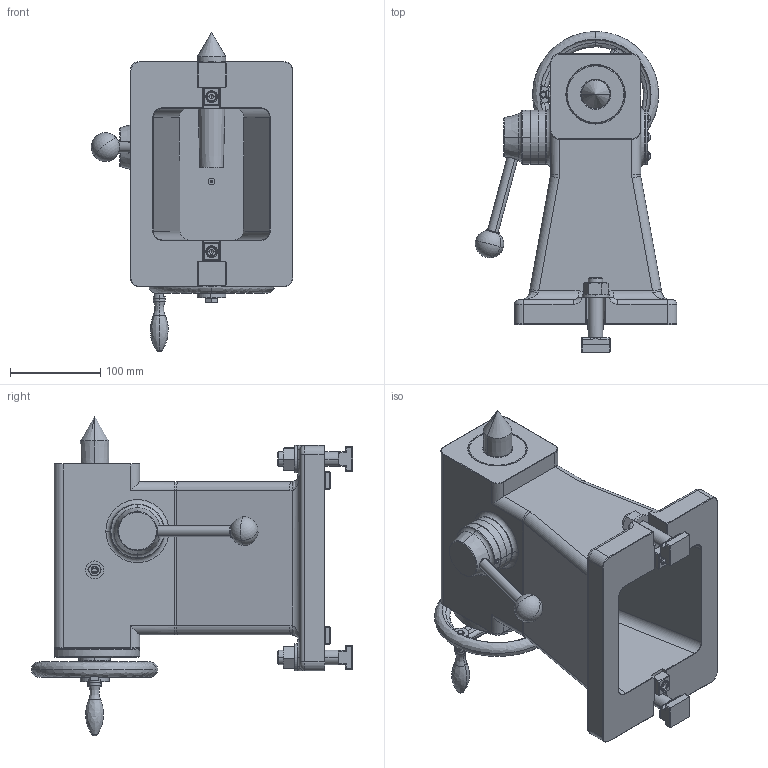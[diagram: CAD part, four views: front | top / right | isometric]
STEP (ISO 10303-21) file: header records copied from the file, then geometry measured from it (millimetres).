
FILE_DESCRIPTION (( 'STEP AP203' ), '1' );
FILE_NAME ('2520044 TC400R-01.STEP', '2020-12-05T05:16:20', ( '' ), ( '' ), 'SwSTEP 2.0', 'SolidWorks 2019', '' );
FILE_SCHEMA (( 'CONFIG_CONTROL_DESIGN' ));
Length unit declared in the file: millimetre
Products named in the file (1): 2520044 TC400R-01
Bounding box: 223.43 x 356 x 354.52 mm (x, y, z)
Surface area: 426216.3 mm2 (no closed solid volume)
Topology: 0 solids, 51 shells, 703 faces, 1939 edges, 1229 vertices
Faces by surface type: plane 267, cylinder 176, cone 118, bspline 84, torus 44, sphere 14
Entity records: 38246 total; most frequent: CARTESIAN_POINT 21227, DIRECTION 3498, ORIENTED_EDGE 3322, EDGE_CURVE 1899, AXIS2_PLACEMENT_3D 1308, VERTEX_POINT 1223, LINE 882, VECTOR 882
